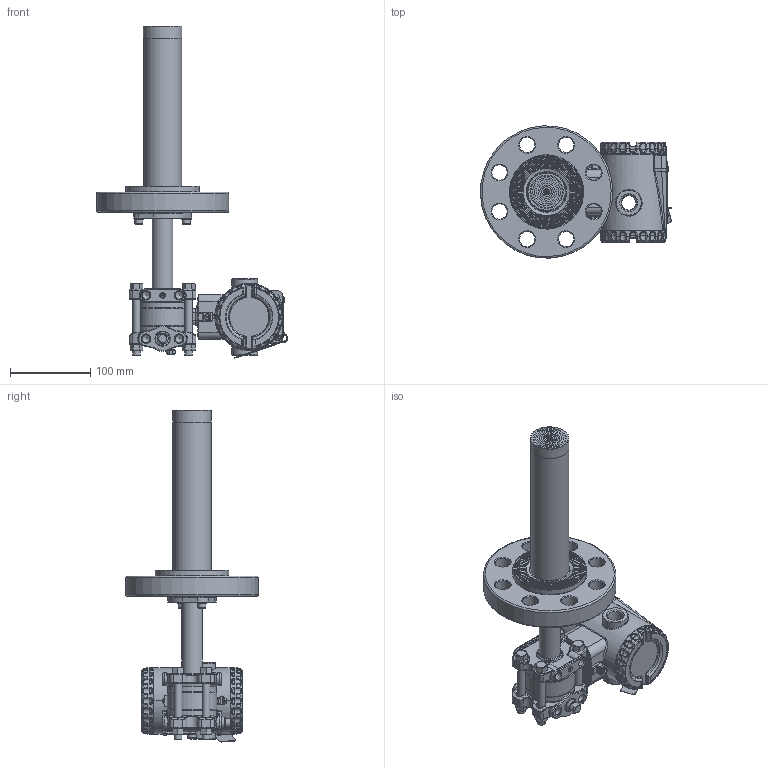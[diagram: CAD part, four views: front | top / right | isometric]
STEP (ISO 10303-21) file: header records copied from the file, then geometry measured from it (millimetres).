
FILE_DESCRIPTION(/* description */ (''),/* implementation_level */ '2;1');
FILE_NAME(/* name */ 'F:\Area\Desenvolvimento_2\Projects\Sensor\projetos\LD400-3d\dimensionais 3D clientes\LD400L\LD400L 2-600 RF ext 200 ref 1-4NPT purga acima.stp',/* time_stamp */ '2023-02-23T15:59:16-03:00',/* author */ ('inventor02'),/* organization */ (''),/* preprocessor_version */ 'ST-DEVELOPER v17',/* originating_system */ 'Autodesk Inventor 2019',/* authorisation */ '');
FILE_SCHEMA (('CONFIG_CONTROL_DESIGN'));
Products named in the file (41): LD30XL 2-600 RF ext 200 ref 1-4NPT purga acima; 204-0301-L-2 600 RF ext 200 purga acima; nivel fx3 com baixa diferencial 1-4NPT purga acima; involucro fx0-3 apos a usinagem final; flange diferencial std purga; 101-C-7484-01 flange selo nivel VR; 201-A-0504-tubo união teste 1; bujao 1-4NPT; Sangria; Porca 3-8 x 16 UNC; Paraf. 3-8 x 16 UNC; adaptação tubo x flanges 1-1-2 a 4pol; 101-B-0161-anel cortado do tubo - teste1; 101-B-0162-flange fixação tubo; ANSI B18.3.1M - M6x1 x 16; DIN 127 - A 6; flange 2 600 ext 200; 101-C-0126-10; 101-B-7700-01-200; 101-B-0168-11; Carcaça 400 com tampas e plaqueta sem letras; 101-D-0845-05 carcaça LD400 sem letras; 101-B-3614-03-tampa 400 sem letras; Tampa visor 400 montada sem letras; 101-B-3612-05 tampa visor 400 sem letras; 101-A-6107; oring 2034; 00034775-0; WHW_250; DIN 915 - M6 x 10; Chapa aterramento externo; 201-A-1771-02 inserto terra recartilhado; AS 1969 - ST4,2; ISO 1207 - M4 x 8; ANSI B18.3.1M - M4x0,7 x 8; Subconjunto plaqueta 400; plaqueta 400 em branco; Parafuso da Plaqueta; Rebite da Plaqueta; 096-A-0169-03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
Assembly tree (50 placements, depth 4):
  LD30XL 2-600 RF ext 200 ref 1-4NPT purga acima
    204-0301-L-2 600 RF ext 200 purga acima
      nivel fx3 com baixa diferencial 1-4NPT purga acima
        involucro fx0-3 apos a usinagem final
        flange diferencial std purga
        101-C-7484-01 flange selo nivel VR
        201-A-0504-tubo união teste 1
        DIN 915 - M6 x 10
        bujao 1-4NPT
        Sangria
        Porca 3-8 x 16 UNC  x4
        Paraf. 3-8 x 16 UNC  x4
      adaptação tubo x flanges 1-1-2 a 4pol
        101-B-0161-anel cortado do tubo - teste1
        101-B-0162-flange fixação tubo
        ANSI B18.3.1M - M6x1 x 16  x2
        DIN 127 - A 6  x2
      flange 2 600 ext 200
        101-C-0126-10
        101-B-7700-01-200
        101-B-0168-11
    Carcaça 400 com tampas e plaqueta sem letras
      101-D-0845-05 carcaça LD400 sem letras
      101-B-3614-03-tampa 400 sem letras
      Tampa visor 400 montada sem letras
        101-B-3612-05 tampa visor 400 sem letras
        101-A-6107
        oring 2034
        00034775-0
        WHW_250
      DIN 915 - M6 x 10
      Chapa aterramento externo
      201-A-1771-02 inserto terra recartilhado
      AS 1969 - ST4,2
      ISO 1207 - M4 x 8
      ANSI B18.3.1M - M4x0,7 x 8  x2
      Subconjunto plaqueta 400
        plaqueta 400 em branco
        Parafuso da Plaqueta
        Rebite da Plaqueta
        096-A-0169-03
        101-A-0502-01
Bounding box: 238.17 x 164.84 x 413.82 mm (x, y, z)
Volume: 1260174 mm3; surface area: 385052.3 mm2
Topology: 43 solids, 43 shells, 2791 faces, 6761 edges, 4060 vertices
Faces by surface type: plane 730, cylinder 668, bspline 604, torus 483, cone 230, sphere 76
Full cylindrical faces by diameter (mm): 2 x4, 2.1 x1, 2.2 x1, 2.459 x3, 2.5 x1, 2.7 x1, 2.8 x1, 3 x4, 3.242 x3, 3.5 x1, 3.571 x1, 4 x5, 4.3 x2, 4.4 x1, 4.917 x4, 5 x1, 5.5 x3, 6 x6, 6.1 x2, 6.2 x1, 6.647 x1, 7 x5, 7.6 x2, 7.798 x4, 8 x1, 9.525 x4, 9.728 x6, 10 x2, 10.5 x8, 10.719 x2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
Entity records: 99334 total; most frequent: CARTESIAN_POINT 37174, DIRECTION 12836, ORIENTED_EDGE 12762, EDGE_CURVE 6381, AXIS2_PLACEMENT_3D 5501, VERTEX_POINT 3866, CIRCLE 3197, EDGE_LOOP 2843
